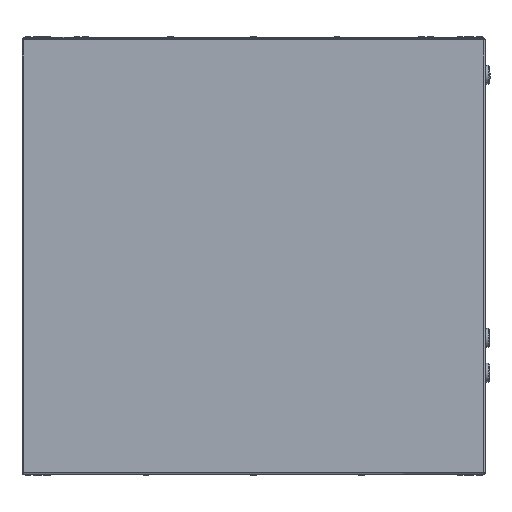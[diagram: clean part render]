
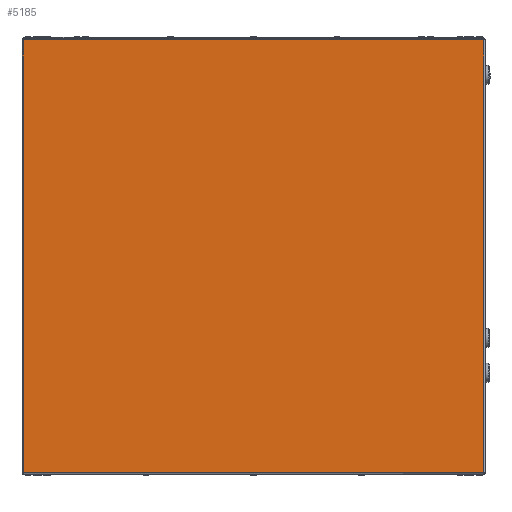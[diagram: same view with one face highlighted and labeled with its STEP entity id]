
A CAD part, front view. The second image highlights one B-rep face of the part: STEP entity #5185.
In plain terms, the highlighted planar face has unit normal (0, -1, 0).
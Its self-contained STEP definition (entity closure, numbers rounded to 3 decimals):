
#4712 = FACE_OUTER_BOUND ( 'NONE', #8953, .T. ) ;
#5185 = ADVANCED_FACE ( 'NONE', ( #4712 ), #18391, .F. ) ;
#8953 = EDGE_LOOP ( 'NONE', ( #11094, #10681, #10647, #10513 ) ) ;
#10513 = ORIENTED_EDGE ( 'NONE', *, *, #12055, .T. ) ;
#10647 = ORIENTED_EDGE ( 'NONE', *, *, #31230, .T. ) ;
#10681 = ORIENTED_EDGE ( 'NONE', *, *, #31228, .T. ) ;
#11094 = ORIENTED_EDGE ( 'NONE', *, *, #12017, .T. ) ;
#12017 = EDGE_CURVE ( 'NONE', #28131, #28229, #13025, .T. ) ;
#12055 = EDGE_CURVE ( 'NONE', #28061, #28131, #13060, .T. ) ;
#13025 = LINE ( 'NONE', #36366, #13029 ) ;
#13029 = VECTOR ( 'NONE', #36368, 1000. ) ;
#13060 = LINE ( 'NONE', #36195, #13067 ) ;
#13067 = VECTOR ( 'NONE', #35936, 1000. ) ;
#16629 = VECTOR ( 'NONE', #34884, 1000. ) ;
#16746 = LINE ( 'NONE', #34878, #16629 ) ;
#16756 = VECTOR ( 'NONE', #33935, 1000. ) ;
#16788 = LINE ( 'NONE', #34879, #16756 ) ;
#18376 = CARTESIAN_POINT ( 'NONE',  ( 0., 0.8, 0. ) ) ;
#18391 = PLANE ( 'NONE',  #30405 ) ;
#18410 = DIRECTION ( 'NONE',  ( 0., 1., 0. ) ) ;
#18635 = DIRECTION ( 'NONE',  ( 0., 0., -1. ) ) ;
#28061 = VERTEX_POINT ( 'NONE', #40003 ) ;
#28131 = VERTEX_POINT ( 'NONE', #41108 ) ;
#28229 = VERTEX_POINT ( 'NONE', #41299 ) ;
#28397 = VERTEX_POINT ( 'NONE', #41139 ) ;
#30405 = AXIS2_PLACEMENT_3D ( 'NONE', #18376, #18410, #18635 ) ;
#31228 = EDGE_CURVE ( 'NONE', #28229, #28397, #16788, .T. ) ;
#31230 = EDGE_CURVE ( 'NONE', #28397, #28061, #16746, .T. ) ;
#33935 = DIRECTION ( 'NONE',  ( 0., 0., 1. ) ) ;
#34878 = CARTESIAN_POINT ( 'NONE',  ( 331.5, 0.8, 311.5 ) ) ;
#34879 = CARTESIAN_POINT ( 'NONE',  ( 331.5, 0.8, -312.7 ) ) ;
#34884 = DIRECTION ( 'NONE',  ( -1., 0., 0. ) ) ;
#35936 = DIRECTION ( 'NONE',  ( 0., 0., -1. ) ) ;
#36195 = CARTESIAN_POINT ( 'NONE',  ( -331.5, 0.8, 312.7 ) ) ;
#36366 = CARTESIAN_POINT ( 'NONE',  ( -331.5, 0.8, -311.5 ) ) ;
#36368 = DIRECTION ( 'NONE',  ( 1., 0., 0. ) ) ;
#40003 = CARTESIAN_POINT ( 'NONE',  ( -331.5, 0.8, 311.5 ) ) ;
#41108 = CARTESIAN_POINT ( 'NONE',  ( -331.5, 0.8, -311.5 ) ) ;
#41139 = CARTESIAN_POINT ( 'NONE',  ( 331.5, 0.8, 311.5 ) ) ;
#41299 = CARTESIAN_POINT ( 'NONE',  ( 331.5, 0.8, -311.5 ) ) ;
